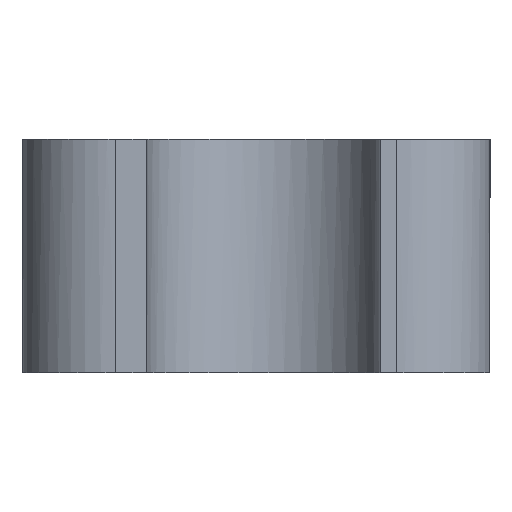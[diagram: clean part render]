
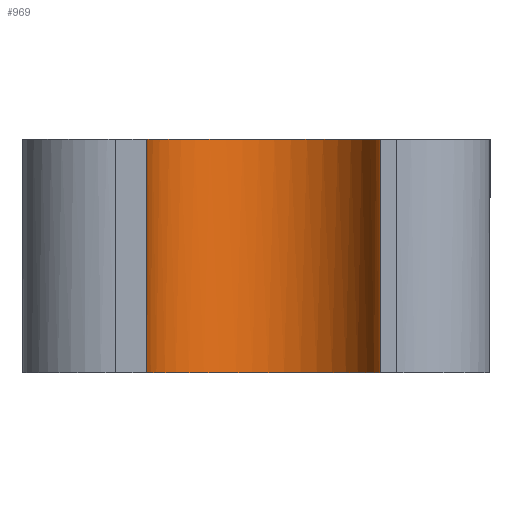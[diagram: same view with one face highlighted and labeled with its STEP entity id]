
A CAD part, left-side view. The second image highlights one B-rep face of the part: STEP entity #969.
In plain terms, the highlighted free-form (B-spline) face has degree [2, 1] with [5, 2] control points.
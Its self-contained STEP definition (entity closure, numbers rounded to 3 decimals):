
#887=CARTESIAN_POINT('V8',(-181.347,-20.659,
   12.7));
#888=VERTEX_POINT('V8',#887);
#894=CARTESIAN_POINT('V7',(-181.347,-20.659,
   0.0));
#895=VERTEX_POINT('V7',#894);
#896=CARTESIAN_POINT('E10',(-181.347,-20.659,
   0.0));
#897=CARTESIAN_POINT('E10',(-181.347,-20.659,
   12.7));
#898=QUASI_UNIFORM_CURVE('E10',1,(#896,#897),.POLYLINE_FORM.,.F.,.U.
   );
#899=EDGE_CURVE('E10',#895,#888,#898,.T.);
#909=CARTESIAN_POINT('F3',(-181.347,-20.659,
   0.0));
#910=CARTESIAN_POINT('F3',(-174.997,-20.659,
   0.0));
#911=CARTESIAN_POINT('F3',(-174.997,-27.009,
   0.0));
#912=CARTESIAN_POINT('F3',(-174.997,-33.359,
   0.0));
#913=CARTESIAN_POINT('F3',(-181.347,-33.359,
   0.0));
#914=CARTESIAN_POINT('F3',(-181.347,-20.659,
   12.7));
#915=CARTESIAN_POINT('F3',(-174.997,-20.659,
   12.7));
#916=CARTESIAN_POINT('F3',(-174.997,-27.009,
   12.7));
#917=CARTESIAN_POINT('F3',(-174.997,-33.359,
   12.7));
#918=CARTESIAN_POINT('F3',(-181.347,-33.359,
   12.7));
#926=(BOUNDED_SURFACE()B_SPLINE_SURFACE(2,1,((#909,#914),(#910,
   #915),(#911,#916),(#912,#917),(#913,#918)),
   .CYLINDRICAL_SURF.,.F.,.F.,.U.)B_SPLINE_SURFACE_WITH_KNOTS((3,2,
   3),(2,2),(0.0,1.,2.),(0.0,1.0),
   .UNSPECIFIED.)GEOMETRIC_REPRESENTATION_ITEM()
   RATIONAL_B_SPLINE_SURFACE(((1.0,1.0),(0.707,
   0.707),(1.0,1.0),(0.707,
   0.707),(1.0,1.0)))REPRESENTATION_ITEM('F3')SURFACE()
   );
#927=CARTESIAN_POINT('V5',(-181.347,-33.359,
   0.0));
#928=VERTEX_POINT('V5',#927);
#929=CARTESIAN_POINT('E8',(-181.347,-33.359,
   0.0));
#930=CARTESIAN_POINT('E8',(-174.997,-33.359,
   0.0));
#931=CARTESIAN_POINT('E8',(-174.997,-27.009,
   0.0));
#932=CARTESIAN_POINT('E8',(-174.997,-20.659,
   0.0));
#933=CARTESIAN_POINT('E8',(-181.347,-20.659,
   0.0));
#941=(BOUNDED_CURVE()B_SPLINE_CURVE(2,(#929,#930,#931,#932,#933),
   .CIRCULAR_ARC.,.F.,.U.)B_SPLINE_CURVE_WITH_KNOTS((3,2,3),(0.0,
   0.5,1.0),.UNSPECIFIED.)CURVE()
   GEOMETRIC_REPRESENTATION_ITEM()RATIONAL_B_SPLINE_CURVE((1.0,
   0.707,1.0,0.707,1.0))REPRESENTATION_ITEM(
   'E8'));
#942=EDGE_CURVE('E8',#928,#895,#941,.T.);
#943=ORIENTED_EDGE('E8',*,*,#942,.T.);
#944=ORIENTED_EDGE('E10',*,*,#899,.T.);
#945=CARTESIAN_POINT('V6',(-181.347,-33.359,
   12.7));
#946=VERTEX_POINT('V6',#945);
#947=CARTESIAN_POINT('E9',(-181.347,-20.659,
   12.7));
#948=CARTESIAN_POINT('E9',(-174.997,-20.659,
   12.7));
#949=CARTESIAN_POINT('E9',(-174.997,-27.009,
   12.7));
#950=CARTESIAN_POINT('E9',(-174.997,-33.359,
   12.7));
#951=CARTESIAN_POINT('E9',(-181.347,-33.359,
   12.7));
#959=(BOUNDED_CURVE()B_SPLINE_CURVE(2,(#947,#948,#949,#950,#951),
   .CIRCULAR_ARC.,.F.,.U.)B_SPLINE_CURVE_WITH_KNOTS((3,2,3),(0.0,
   0.5,1.0),.UNSPECIFIED.)CURVE()
   GEOMETRIC_REPRESENTATION_ITEM()RATIONAL_B_SPLINE_CURVE((1.0,
   0.707,1.0,0.707,1.0))REPRESENTATION_ITEM(
   'E9'));
#960=EDGE_CURVE('E9',#888,#946,#959,.T.);
#961=ORIENTED_EDGE('E9',*,*,#960,.T.);
#962=CARTESIAN_POINT('E7',(-181.347,-33.359,
   0.0));
#963=CARTESIAN_POINT('E7',(-181.347,-33.359,
   12.7));
#964=QUASI_UNIFORM_CURVE('E7',1,(#962,#963),.POLYLINE_FORM.,.F.,.U.
   );
#965=EDGE_CURVE('E7',#928,#946,#964,.T.);
#966=ORIENTED_EDGE('E7',*,*,#965,.F.);
#967=EDGE_LOOP('F3',(#943,#944,#961,#966));
#968=FACE_OUTER_BOUND('F3',#967,.F.);
#969=ADVANCED_FACE('F3',(#968),#926,.T.);
